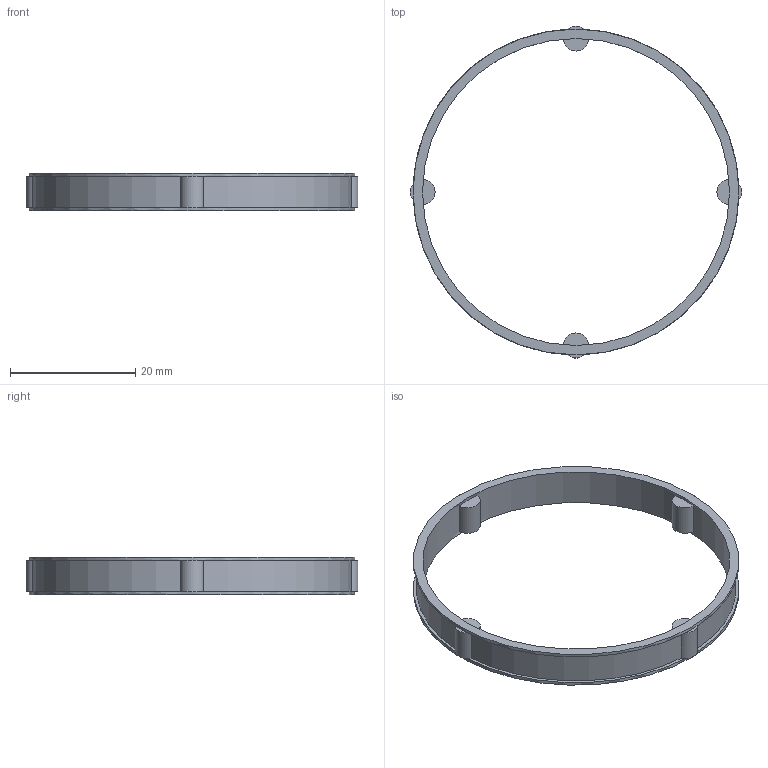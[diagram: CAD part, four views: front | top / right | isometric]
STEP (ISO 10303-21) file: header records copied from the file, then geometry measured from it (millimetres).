
FILE_DESCRIPTION(/* description */ (''),/* implementation_level */ '2;1');
FILE_NAME(/* name */ '302752 RL 453 - 4.stp',/* time_stamp */ '2016-11-10T15:20:06+01:00',/* author */ (''),/* organization */ (''),/* preprocessor_version */ 'ST-DEVELOPER v15',/* originating_system */ 'SIEMENS PLM Software NX 8.5',/* authorisation */ '');
FILE_SCHEMA (('CONFIG_CONTROL_DESIGN'));
Length unit declared in the file: millimetre
Products named in the file (1): ATE0000098_01
Bounding box: 52.99 x 52.99 x 6 mm (x, y, z)
Volume: 1197.4 mm3; surface area: 2628.3 mm2
Topology: 1 solids, 1 shells, 41 faces, 92 edges, 56 vertices
Faces by surface type: plane 26, cylinder 15
Full cylindrical faces by diameter (mm): 49 x1, 52 x2
Entity records: 1198 total; most frequent: DIRECTION 236, CARTESIAN_POINT 178, ORIENTED_EDGE 168, AXIS2_PLACEMENT_3D 110, EDGE_CURVE 84, CIRCLE 68, VERTEX_POINT 52, EDGE_LOOP 50
